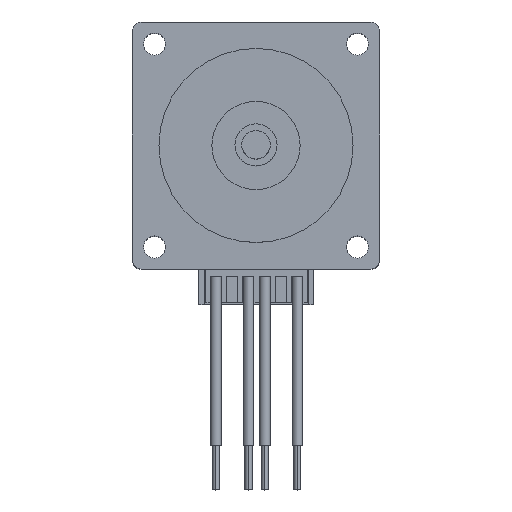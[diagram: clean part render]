
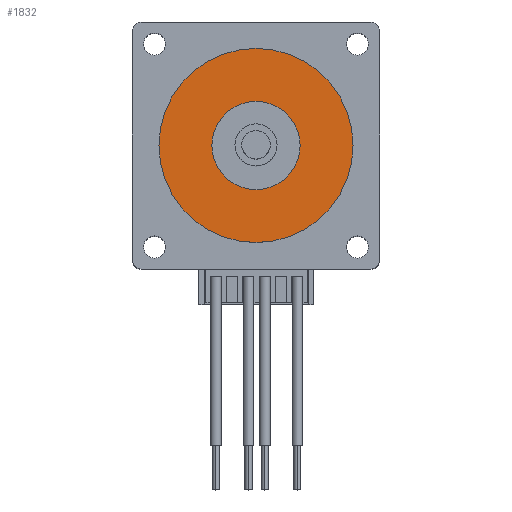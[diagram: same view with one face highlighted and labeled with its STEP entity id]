
A CAD part, top view. The second image highlights one B-rep face of the part: STEP entity #1832.
In plain terms, the highlighted planar face has unit normal (0, 0, 1).
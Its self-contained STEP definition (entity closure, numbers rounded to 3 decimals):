
#41 = EDGE_CURVE ( 'NONE', #415, #3713, #1512, .T. ) ;
#210 = DIRECTION ( 'NONE',  ( 0., 0., 1. ) ) ;
#415 = VERTEX_POINT ( 'NONE', #3317 ) ;
#430 = CARTESIAN_POINT ( 'NONE',  ( -11., 0., 36. ) ) ;
#656 = AXIS2_PLACEMENT_3D ( 'NONE', #875, #3234, #1214 ) ;
#761 = CARTESIAN_POINT ( 'NONE',  ( 5., 0., 36. ) ) ;
#875 = CARTESIAN_POINT ( 'NONE',  ( 0., 0., 36. ) ) ;
#1051 = EDGE_LOOP ( 'NONE', ( #1173, #3648 ) ) ;
#1076 = EDGE_LOOP ( 'NONE', ( #2829, #4042 ) ) ;
#1173 = ORIENTED_EDGE ( 'NONE', *, *, #3573, .F. ) ;
#1214 = DIRECTION ( 'NONE',  ( 1., 0., 0. ) ) ;
#1512 = CIRCLE ( 'NONE', #4050, 11. ) ;
#1577 = CIRCLE ( 'NONE', #2795, 11. ) ;
#1717 = DIRECTION ( 'NONE',  ( 1., 0., 0. ) ) ;
#1832 = ADVANCED_FACE ( 'NONE', ( #4214, #3426 ), #3628, .T. ) ;
#1849 = CARTESIAN_POINT ( 'NONE',  ( 0., 0., 36. ) ) ;
#2063 = CARTESIAN_POINT ( 'NONE',  ( 0., 0., 36. ) ) ;
#2187 = DIRECTION ( 'NONE',  ( 1., 0., 0. ) ) ;
#2239 = CARTESIAN_POINT ( 'NONE',  ( 0., 0., 36. ) ) ;
#2296 = DIRECTION ( 'NONE',  ( 1., 0., 0. ) ) ;
#2567 = DIRECTION ( 'NONE',  ( 1., 0., 0. ) ) ;
#2603 = CARTESIAN_POINT ( 'NONE',  ( 0., 0., 36. ) ) ;
#2795 = AXIS2_PLACEMENT_3D ( 'NONE', #2239, #210, #2567 ) ;
#2829 = ORIENTED_EDGE ( 'NONE', *, *, #3882, .T. ) ;
#2948 = CIRCLE ( 'NONE', #2989, 5. ) ;
#2989 = AXIS2_PLACEMENT_3D ( 'NONE', #1849, #4194, #2187 ) ;
#3234 = DIRECTION ( 'NONE',  ( 0., 0., 1. ) ) ;
#3273 = CARTESIAN_POINT ( 'NONE',  ( -5., 0., 36. ) ) ;
#3317 = CARTESIAN_POINT ( 'NONE',  ( 11., 0., 36. ) ) ;
#3392 = VERTEX_POINT ( 'NONE', #761 ) ;
#3426 = FACE_BOUND ( 'NONE', #1051, .T. ) ;
#3509 = EDGE_CURVE ( 'NONE', #3627, #3392, #2948, .T. ) ;
#3573 = EDGE_CURVE ( 'NONE', #3392, #3627, #3634, .T. ) ;
#3627 = VERTEX_POINT ( 'NONE', #3273 ) ;
#3628 = PLANE ( 'NONE',  #4134 ) ;
#3634 = CIRCLE ( 'NONE', #656, 5. ) ;
#3648 = ORIENTED_EDGE ( 'NONE', *, *, #3509, .F. ) ;
#3713 = VERTEX_POINT ( 'NONE', #430 ) ;
#3882 = EDGE_CURVE ( 'NONE', #3713, #415, #1577, .T. ) ;
#4042 = ORIENTED_EDGE ( 'NONE', *, *, #41, .T. ) ;
#4050 = AXIS2_PLACEMENT_3D ( 'NONE', #2063, #4058, #1717 ) ;
#4058 = DIRECTION ( 'NONE',  ( 0., 0., 1. ) ) ;
#4134 = AXIS2_PLACEMENT_3D ( 'NONE', #2603, #4295, #2296 ) ;
#4194 = DIRECTION ( 'NONE',  ( 0., 0., 1. ) ) ;
#4214 = FACE_OUTER_BOUND ( 'NONE', #1076, .T. ) ;
#4295 = DIRECTION ( 'NONE',  ( 0., 0., 1. ) ) ;
